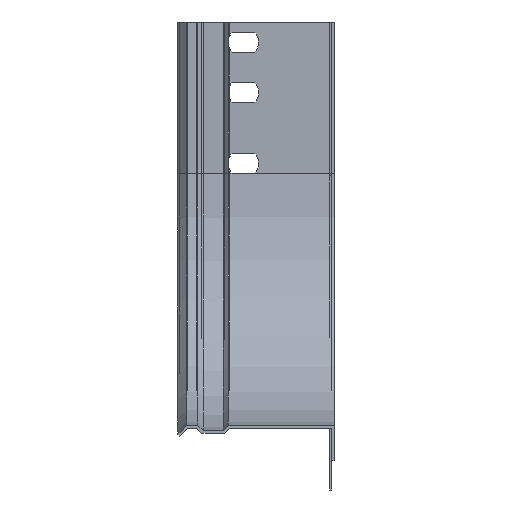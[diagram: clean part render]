
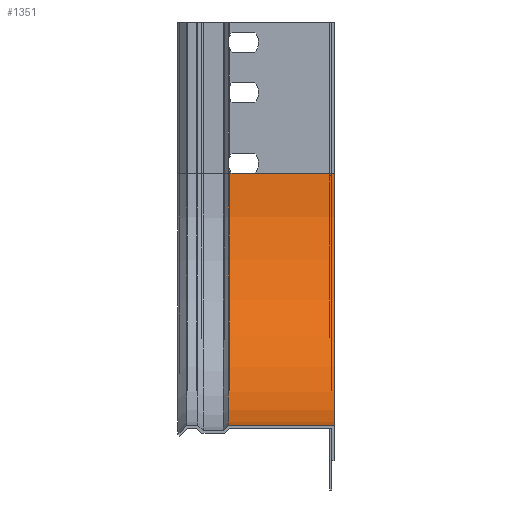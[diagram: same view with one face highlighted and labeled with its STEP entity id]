
A CAD part, left-side view. The second image highlights one B-rep face of the part: STEP entity #1351.
In plain terms, the highlighted cylindrical face has radius 100 mm (diameter 200 mm), a partial arc.
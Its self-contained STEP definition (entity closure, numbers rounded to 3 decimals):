
#145 = LINE ( 'NONE', #1650, #4556 ) ;
#151 = ORIENTED_EDGE ( 'NONE', *, *, #2963, .T. ) ;
#181 = CARTESIAN_POINT ( 'NONE',  ( -160., 31.528, 60. ) ) ;
#196 = CARTESIAN_POINT ( 'NONE',  ( -60., 42., 160. ) ) ;
#248 = VECTOR ( 'NONE', #3311, 1000. ) ;
#303 = CARTESIAN_POINT ( 'NONE',  ( -60., 0., 60. ) ) ;
#307 = DIRECTION ( 'NONE',  ( 0., 1., 0. ) ) ;
#481 = LINE ( 'NONE', #2039, #3086 ) ;
#609 = AXIS2_PLACEMENT_3D ( 'NONE', #624, #1341, #988 ) ;
#624 = CARTESIAN_POINT ( 'NONE',  ( -60., 0., 60. ) ) ;
#632 = VERTEX_POINT ( 'NONE', #181 ) ;
#633 = DIRECTION ( 'NONE',  ( 0., 0., -1. ) ) ;
#648 = VERTEX_POINT ( 'NONE', #3194 ) ;
#686 = ORIENTED_EDGE ( 'NONE', *, *, #1612, .T. ) ;
#922 = CIRCLE ( 'NONE', #1562, 100. ) ;
#988 = DIRECTION ( 'NONE',  ( 0., 0., -1. ) ) ;
#1135 = ORIENTED_EDGE ( 'NONE', *, *, #2446, .F. ) ;
#1214 = VERTEX_POINT ( 'NONE', #2457 ) ;
#1238 = EDGE_CURVE ( 'NONE', #1571, #632, #2937, .T. ) ;
#1341 = DIRECTION ( 'NONE',  ( 0., -1., 0. ) ) ;
#1351 = ADVANCED_FACE ( 'NONE', ( #4813 ), #2909, .F. ) ;
#1364 = ORIENTED_EDGE ( 'NONE', *, *, #3514, .F. ) ;
#1429 = CARTESIAN_POINT ( 'NONE',  ( -60., 42., 60. ) ) ;
#1452 = EDGE_LOOP ( 'NONE', ( #4179, #2866, #2699, #151, #686, #1364, #3525, #1135 ) ) ;
#1562 = AXIS2_PLACEMENT_3D ( 'NONE', #303, #4501, #3000 ) ;
#1571 = VERTEX_POINT ( 'NONE', #2844 ) ;
#1612 = EDGE_CURVE ( 'NONE', #2857, #4953, #3965, .T. ) ;
#1650 = CARTESIAN_POINT ( 'NONE',  ( -160., 40.472, 60. ) ) ;
#1701 = DIRECTION ( 'NONE',  ( 0., 1., 0. ) ) ;
#1732 = CARTESIAN_POINT ( 'NONE',  ( -60., 0., 160. ) ) ;
#1867 = EDGE_CURVE ( 'NONE', #4618, #648, #2552, .T. ) ;
#1885 = AXIS2_PLACEMENT_3D ( 'NONE', #1429, #2242, #633 ) ;
#1985 = VECTOR ( 'NONE', #4447, 1000. ) ;
#2039 = CARTESIAN_POINT ( 'NONE',  ( -60., 0., 160. ) ) ;
#2106 = VECTOR ( 'NONE', #2882, 1000. ) ;
#2242 = DIRECTION ( 'NONE',  ( 0., -1., 0. ) ) ;
#2249 = VECTOR ( 'NONE', #5021, 1000. ) ;
#2384 = VERTEX_POINT ( 'NONE', #196 ) ;
#2446 = EDGE_CURVE ( 'NONE', #648, #1214, #4927, .T. ) ;
#2457 = CARTESIAN_POINT ( 'NONE',  ( -60., 40.472, 160. ) ) ;
#2535 = CARTESIAN_POINT ( 'NONE',  ( -160., 0., 60. ) ) ;
#2552 = LINE ( 'NONE', #1732, #248 ) ;
#2699 = ORIENTED_EDGE ( 'NONE', *, *, #1238, .T. ) ;
#2796 = CARTESIAN_POINT ( 'NONE',  ( -160., 0., 60. ) ) ;
#2844 = CARTESIAN_POINT ( 'NONE',  ( -160., 0., 60. ) ) ;
#2857 = VERTEX_POINT ( 'NONE', #2939 ) ;
#2866 = ORIENTED_EDGE ( 'NONE', *, *, #3579, .T. ) ;
#2882 = DIRECTION ( 'NONE',  ( 0., 1., 0. ) ) ;
#2909 = CYLINDRICAL_SURFACE ( 'NONE', #609, 100. ) ;
#2937 = LINE ( 'NONE', #2535, #2106 ) ;
#2939 = CARTESIAN_POINT ( 'NONE',  ( -160., 40.472, 60. ) ) ;
#2963 = EDGE_CURVE ( 'NONE', #632, #2857, #145, .T. ) ;
#3000 = DIRECTION ( 'NONE',  ( 0., 0., -1. ) ) ;
#3037 = EDGE_CURVE ( 'NONE', #1214, #2384, #481, .T. ) ;
#3086 = VECTOR ( 'NONE', #307, 1000. ) ;
#3194 = CARTESIAN_POINT ( 'NONE',  ( -60., 31.528, 160. ) ) ;
#3311 = DIRECTION ( 'NONE',  ( 0., 1., 0. ) ) ;
#3514 = EDGE_CURVE ( 'NONE', #2384, #4953, #4566, .T. ) ;
#3525 = ORIENTED_EDGE ( 'NONE', *, *, #3037, .F. ) ;
#3579 = EDGE_CURVE ( 'NONE', #4618, #1571, #922, .T. ) ;
#3965 = LINE ( 'NONE', #2796, #1985 ) ;
#4179 = ORIENTED_EDGE ( 'NONE', *, *, #1867, .F. ) ;
#4213 = CARTESIAN_POINT ( 'NONE',  ( -60., 40.472, 160. ) ) ;
#4447 = DIRECTION ( 'NONE',  ( 0., 1., 0. ) ) ;
#4501 = DIRECTION ( 'NONE',  ( 0., -1., 0. ) ) ;
#4556 = VECTOR ( 'NONE', #1701, 1000. ) ;
#4566 = CIRCLE ( 'NONE', #1885, 100. ) ;
#4618 = VERTEX_POINT ( 'NONE', #4693 ) ;
#4693 = CARTESIAN_POINT ( 'NONE',  ( -60., 0., 160. ) ) ;
#4813 = FACE_OUTER_BOUND ( 'NONE', #1452, .T. ) ;
#4898 = CARTESIAN_POINT ( 'NONE',  ( -160., 42., 60. ) ) ;
#4927 = LINE ( 'NONE', #4213, #2249 ) ;
#4953 = VERTEX_POINT ( 'NONE', #4898 ) ;
#5021 = DIRECTION ( 'NONE',  ( 0., 1., 0. ) ) ;
